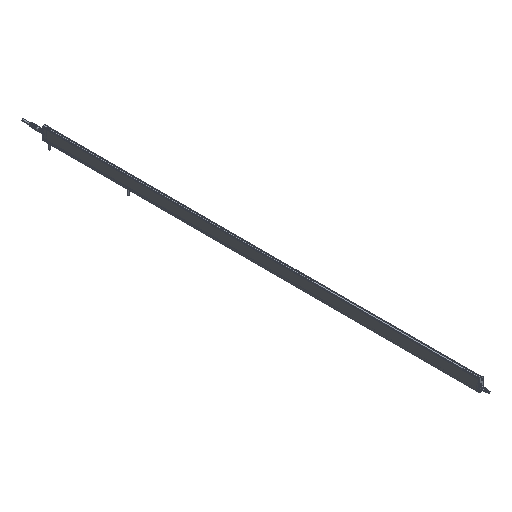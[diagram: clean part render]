
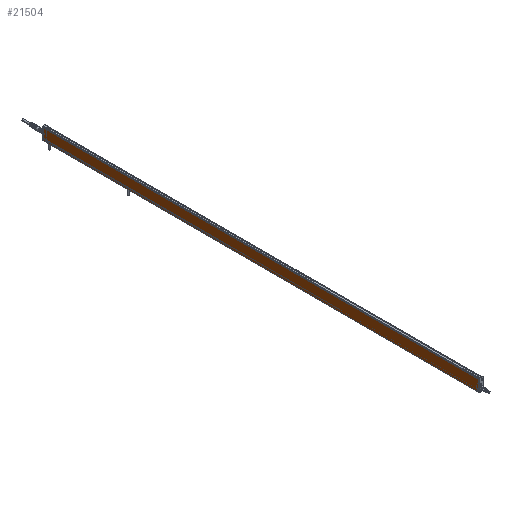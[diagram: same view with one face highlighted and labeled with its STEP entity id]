
A CAD part, isometric view. The second image highlights one B-rep face of the part: STEP entity #21504.
In plain terms, the highlighted planar face has unit normal (-1, 0, 0).
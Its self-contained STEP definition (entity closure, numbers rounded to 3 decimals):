
#1160 = VECTOR ( 'NONE', #18497, 1000. ) ;
#1673 = VERTEX_POINT ( 'NONE', #16425 ) ;
#1968 = CARTESIAN_POINT ( 'NONE',  ( -9., 1105., 0.5 ) ) ;
#2374 = VERTEX_POINT ( 'NONE', #28383 ) ;
#4162 = CARTESIAN_POINT ( 'NONE',  ( -9., 1105., 28.5 ) ) ;
#4828 = DIRECTION ( 'NONE',  ( 0., 0., -1. ) ) ;
#5673 = EDGE_CURVE ( 'NONE', #1673, #30688, #14293, .T. ) ;
#6837 = PLANE ( 'NONE',  #7603 ) ;
#7016 = CARTESIAN_POINT ( 'NONE',  ( -9., 0., 28.5 ) ) ;
#7603 = AXIS2_PLACEMENT_3D ( 'NONE', #4162, #19394, #33070 ) ;
#7864 = EDGE_CURVE ( 'NONE', #30688, #2374, #21388, .T. ) ;
#9192 = CARTESIAN_POINT ( 'NONE',  ( -9., 1105., 0.5 ) ) ;
#9730 = ORIENTED_EDGE ( 'NONE', *, *, #7864, .F. ) ;
#9745 = ORIENTED_EDGE ( 'NONE', *, *, #5673, .F. ) ;
#9833 = VECTOR ( 'NONE', #4828, 1000. ) ;
#9969 = CARTESIAN_POINT ( 'NONE',  ( -9., 1105., 28.5 ) ) ;
#11161 = DIRECTION ( 'NONE',  ( 0., -1., 0. ) ) ;
#12579 = EDGE_CURVE ( 'NONE', #1673, #27340, #29673, .T. ) ;
#13769 = CARTESIAN_POINT ( 'NONE',  ( -9., 0., 28.5 ) ) ;
#14293 = LINE ( 'NONE', #29128, #1160 ) ;
#16425 = CARTESIAN_POINT ( 'NONE',  ( -9., 1105., 28.5 ) ) ;
#16900 = VECTOR ( 'NONE', #11161, 1000. ) ;
#17943 = ORIENTED_EDGE ( 'NONE', *, *, #22761, .T. ) ;
#18497 = DIRECTION ( 'NONE',  ( 0., -1., 0. ) ) ;
#19394 = DIRECTION ( 'NONE',  ( -1., 0., 0. ) ) ;
#21388 = LINE ( 'NONE', #13769, #33928 ) ;
#21504 = ADVANCED_FACE ( 'NONE', ( #29552 ), #6837, .T. ) ;
#22761 = EDGE_CURVE ( 'NONE', #27340, #2374, #31143, .T. ) ;
#24067 = DIRECTION ( 'NONE',  ( 0., 0., -1. ) ) ;
#27340 = VERTEX_POINT ( 'NONE', #9192 ) ;
#28125 = ORIENTED_EDGE ( 'NONE', *, *, #12579, .T. ) ;
#28383 = CARTESIAN_POINT ( 'NONE',  ( -9., 0., 0.5 ) ) ;
#29128 = CARTESIAN_POINT ( 'NONE',  ( -9., 1105., 28.5 ) ) ;
#29552 = FACE_OUTER_BOUND ( 'NONE', #32771, .T. ) ;
#29673 = LINE ( 'NONE', #9969, #9833 ) ;
#30688 = VERTEX_POINT ( 'NONE', #7016 ) ;
#31143 = LINE ( 'NONE', #1968, #16900 ) ;
#32771 = EDGE_LOOP ( 'NONE', ( #9730, #9745, #28125, #17943 ) ) ;
#33070 = DIRECTION ( 'NONE',  ( 0., -1., 0. ) ) ;
#33928 = VECTOR ( 'NONE', #24067, 1000. ) ;
